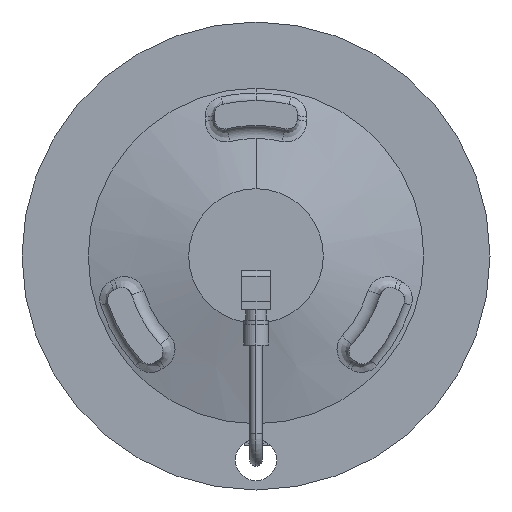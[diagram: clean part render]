
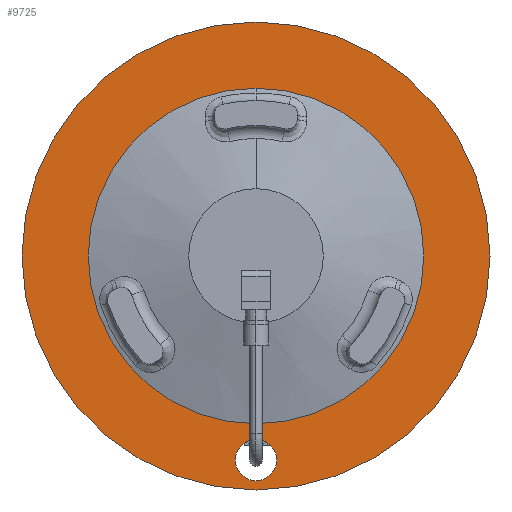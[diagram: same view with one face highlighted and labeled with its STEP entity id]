
A CAD part, front view. The second image highlights one B-rep face of the part: STEP entity #9725.
In plain terms, the highlighted planar face has unit normal (0, -1, 0).
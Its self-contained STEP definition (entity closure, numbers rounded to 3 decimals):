
#597 = DIRECTION ( 'NONE',  ( 0., -1., 0. ) ) ;
#859 = AXIS2_PLACEMENT_3D ( 'NONE', #8616, #597, #8437 ) ;
#1222 = EDGE_CURVE ( 'NONE', #1784, #6461, #1246, .T. ) ;
#1246 = CIRCLE ( 'NONE', #3400, 10. ) ;
#1586 = ORIENTED_EDGE ( 'NONE', *, *, #1222, .F. ) ;
#1784 = VERTEX_POINT ( 'NONE', #15841 ) ;
#1924 = CARTESIAN_POINT ( 'NONE',  ( 0., -133.8, -98.5 ) ) ;
#2482 = ORIENTED_EDGE ( 'NONE', *, *, #7657, .F. ) ;
#2538 = CARTESIAN_POINT ( 'NONE',  ( 0., -133.8, 113. ) ) ;
#3133 = DIRECTION ( 'NONE',  ( 0., 0., 1. ) ) ;
#3232 = FACE_OUTER_BOUND ( 'NONE', #12979, .T. ) ;
#3295 = DIRECTION ( 'NONE',  ( 0., 1., 0. ) ) ;
#3315 = FACE_BOUND ( 'NONE', #3491, .T. ) ;
#3397 = PLANE ( 'NONE',  #859 ) ;
#3400 = AXIS2_PLACEMENT_3D ( 'NONE', #1924, #7117, #16153 ) ;
#3491 = EDGE_LOOP ( 'NONE', ( #1586, #2482 ) ) ;
#3578 = CARTESIAN_POINT ( 'NONE',  ( 0., -133.8, 0. ) ) ;
#3590 = CARTESIAN_POINT ( 'NONE',  ( 0., -133.8, 0. ) ) ;
#3606 = CARTESIAN_POINT ( 'NONE',  ( 0., -133.8, -98.5 ) ) ;
#3694 = EDGE_CURVE ( 'NONE', #7116, #7766, #7699, .T. ) ;
#3889 = ORIENTED_EDGE ( 'NONE', *, *, #14040, .T. ) ;
#4887 = DIRECTION ( 'NONE',  ( 0., -1., 0. ) ) ;
#5886 = ORIENTED_EDGE ( 'NONE', *, *, #3694, .T. ) ;
#6461 = VERTEX_POINT ( 'NONE', #13426 ) ;
#6575 = CIRCLE ( 'NONE', #8473, 10. ) ;
#7116 = VERTEX_POINT ( 'NONE', #9620 ) ;
#7117 = DIRECTION ( 'NONE',  ( 0., -1., 0. ) ) ;
#7343 = DIRECTION ( 'NONE',  ( 0., 1., 0. ) ) ;
#7657 = EDGE_CURVE ( 'NONE', #6461, #1784, #6575, .T. ) ;
#7699 = CIRCLE ( 'NONE', #16428, 81.017 ) ;
#7766 = VERTEX_POINT ( 'NONE', #13762 ) ;
#7937 = AXIS2_PLACEMENT_3D ( 'NONE', #3590, #8804, #14003 ) ;
#8437 = DIRECTION ( 'NONE',  ( 0., 0., -1. ) ) ;
#8473 = AXIS2_PLACEMENT_3D ( 'NONE', #3606, #4887, #11377 ) ;
#8616 = CARTESIAN_POINT ( 'NONE',  ( -113., -133.8, 0. ) ) ;
#8804 = DIRECTION ( 'NONE',  ( 0., 1., 0. ) ) ;
#9362 = EDGE_CURVE ( 'NONE', #10141, #10109, #12273, .T. ) ;
#9620 = CARTESIAN_POINT ( 'NONE',  ( 0., -133.8, 81.017 ) ) ;
#9725 = ADVANCED_FACE ( 'NONE', ( #3315, #15170, #3232 ), #3397, .T. ) ;
#9818 = EDGE_CURVE ( 'NONE', #10109, #10141, #15450, .T. ) ;
#9996 = DIRECTION ( 'NONE',  ( 0., 0., 1. ) ) ;
#10109 = VERTEX_POINT ( 'NONE', #2538 ) ;
#10141 = VERTEX_POINT ( 'NONE', #10804 ) ;
#10701 = ORIENTED_EDGE ( 'NONE', *, *, #9362, .F. ) ;
#10804 = CARTESIAN_POINT ( 'NONE',  ( 0., -133.8, -113. ) ) ;
#11065 = CARTESIAN_POINT ( 'NONE',  ( 0., -133.8, 0. ) ) ;
#11215 = DIRECTION ( 'NONE',  ( 0., 1., 0. ) ) ;
#11377 = DIRECTION ( 'NONE',  ( 0., 0., -1. ) ) ;
#11647 = AXIS2_PLACEMENT_3D ( 'NONE', #11065, #3295, #3133 ) ;
#12273 = CIRCLE ( 'NONE', #7937, 113. ) ;
#12577 = DIRECTION ( 'NONE',  ( 0., 0., 1. ) ) ;
#12979 = EDGE_LOOP ( 'NONE', ( #13892, #10701 ) ) ;
#13426 = CARTESIAN_POINT ( 'NONE',  ( 0., -133.8, -108.5 ) ) ;
#13762 = CARTESIAN_POINT ( 'NONE',  ( 0., -133.8, -81.017 ) ) ;
#13892 = ORIENTED_EDGE ( 'NONE', *, *, #9818, .F. ) ;
#14003 = DIRECTION ( 'NONE',  ( 0., 0., 1. ) ) ;
#14040 = EDGE_CURVE ( 'NONE', #7766, #7116, #15612, .T. ) ;
#14122 = CARTESIAN_POINT ( 'NONE',  ( 0., -133.8, 0. ) ) ;
#15170 = FACE_BOUND ( 'NONE', #16305, .T. ) ;
#15328 = AXIS2_PLACEMENT_3D ( 'NONE', #14122, #11215, #12577 ) ;
#15450 = CIRCLE ( 'NONE', #11647, 113. ) ;
#15612 = CIRCLE ( 'NONE', #15328, 81.017 ) ;
#15841 = CARTESIAN_POINT ( 'NONE',  ( 0., -133.8, -88.5 ) ) ;
#16153 = DIRECTION ( 'NONE',  ( 0., 0., -1. ) ) ;
#16305 = EDGE_LOOP ( 'NONE', ( #5886, #3889 ) ) ;
#16428 = AXIS2_PLACEMENT_3D ( 'NONE', #3578, #7343, #9996 ) ;
